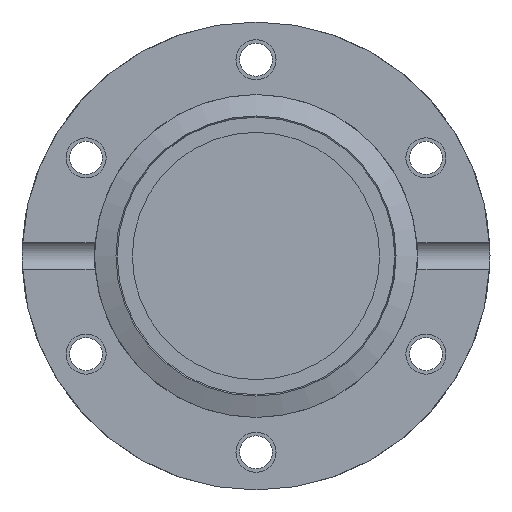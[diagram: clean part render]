
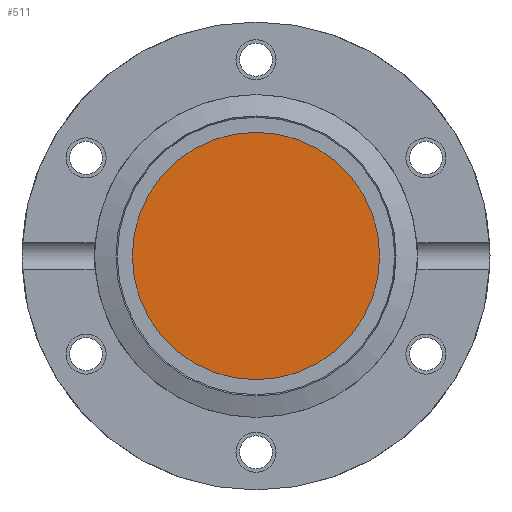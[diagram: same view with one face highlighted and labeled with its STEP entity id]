
A CAD part, left-side view. The second image highlights one B-rep face of the part: STEP entity #511.
In plain terms, the highlighted planar face has unit normal (-1, 0, 0).
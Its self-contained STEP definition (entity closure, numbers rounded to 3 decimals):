
#511 = ADVANCED_FACE( '', ( #1091 ), #1092, .F. );
#1091 = FACE_OUTER_BOUND( '', #1680, .T. );
#1092 = PLANE( '', #1681 );
#1680 = EDGE_LOOP( '', ( #2502 ) );
#1681 = AXIS2_PLACEMENT_3D( '', #2503, #2504, #2505 );
#2502 = ORIENTED_EDGE( '', *, *, #2800, .T. );
#2503 = CARTESIAN_POINT( '', ( 0., 0., 26. ) );
#2504 = DIRECTION( '', ( 1., 0., 0. ) );
#2505 = DIRECTION( '', ( 0., 0., -1. ) );
#2800 = EDGE_CURVE( '', #3192, #3192, #3193, .T. );
#3192 = VERTEX_POINT( '', #3784 );
#3193 = CIRCLE( '', #3785, 26. );
#3784 = CARTESIAN_POINT( '', ( 0., 0., 26. ) );
#3785 = AXIS2_PLACEMENT_3D( '', #4264, #4265, #4266 );
#4264 = CARTESIAN_POINT( '', ( 0., 0., 0. ) );
#4265 = DIRECTION( '', ( -1., 0., 0. ) );
#4266 = DIRECTION( '', ( 0., 0., 1. ) );
